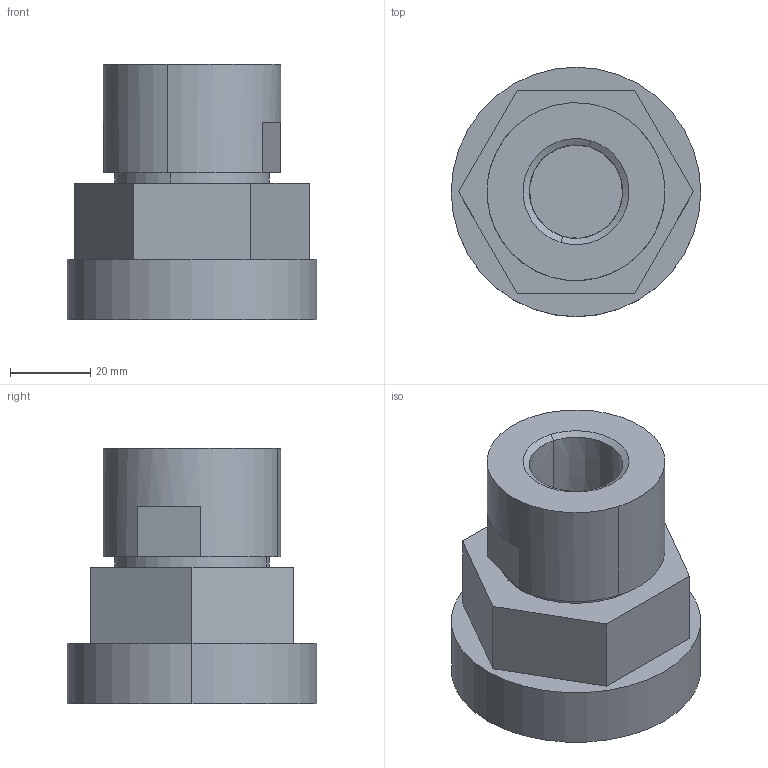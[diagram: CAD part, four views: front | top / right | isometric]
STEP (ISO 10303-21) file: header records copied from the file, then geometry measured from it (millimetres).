
FILE_DESCRIPTION (( 'STEP AP214' ), '1' );
FILE_NAME ('12-fnpt-top-out.STEP', '2012-12-03T21:19:41', ( '' ), ( '' ), 'SwSTEP 2.0', 'SolidWorks 2012', '' );
FILE_SCHEMA (( 'AUTOMOTIVE_DESIGN' ));
Length unit declared in the file: inch
Products named in the file (1): 12-fnpt-top-out
Bounding box: 62.33 x 62.33 x 63.91 mm (x, y, z)
Volume: 125266.4 mm3; surface area: 18608.6 mm2
Topology: 1 solids, 1 shells, 26 faces, 58 edges, 38 vertices
Faces by surface type: plane 16, cylinder 6, cone 4
Entity records: 807 total; most frequent: DIRECTION 134, CARTESIAN_POINT 123, ORIENTED_EDGE 116, EDGE_CURVE 58, AXIS2_PLACEMENT_3D 49, VERTEX_POINT 38, LINE 36, VECTOR 36
